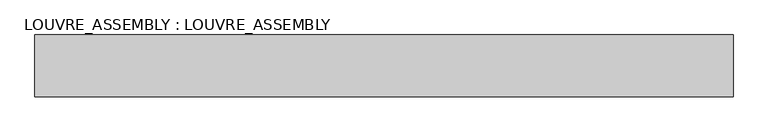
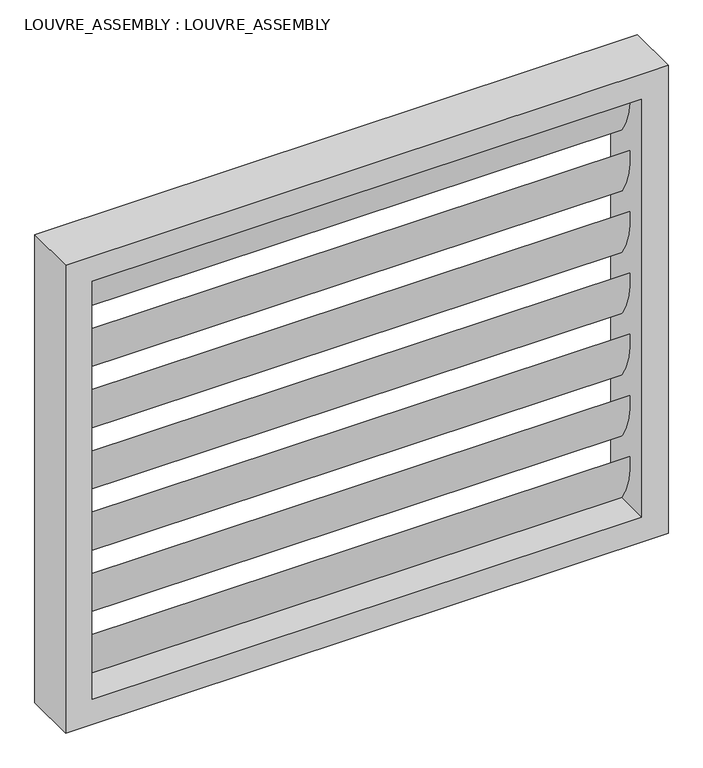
"""IFC4 building model written with IfcOpenShell, lengths in millimetres: plate geometry, LOUVRE_ASSEMBLY : LOUVRE_ASSEMBLY."""

from ifc_helpers import new_model, si_unit, point, frame, frame_2d, origin, place, context, project, spatial, circle_curve, trimmed, segment, composite_curve, outline, extrude, faceted_brep, source, transform, mapped, element, save


def louvre_assembly_louvre_assembly_8d303e35(model_context):
    return source(origin(), model_context, "Body", "SolidModel", [
        extrude(outline(composite_curve([segment(trimmed(circle_curve(frame_2d((202.8444235, 386.8519995)), 222.9910312), [point((19.4114284, 260.055563))], [point((-19.4114284, 404.944437))], False, "CARTESIAN"), True, "CONTINUOUS"), segment(trimmed(circle_curve(frame_2d((-202.8444235, 278.1480005)), 222.9910312), [point((-19.4114284, 404.944437))], [point((19.4114284, 260.055563))], False, "CARTESIAN"), True, "CONTINUOUS")], self_intersect=False)), frame((-775.0, 0.0, 0.0), z_axis=(1.0, 0.0, 0.0), x_axis=(0.0, 1.0, 0.0)), (0.0, 0.0, 1.0), 1550.0),
        extrude(outline(composite_curve([segment(trimmed(circle_curve(frame_2d((202.8444235, 569.3519995)), 222.9910312), [point((19.4114284, 442.555563))], [point((-19.4114284, 587.444437))], False, "CARTESIAN"), True, "CONTINUOUS"), segment(trimmed(circle_curve(frame_2d((-202.8444235, 460.6480005)), 222.9910312), [point((-19.4114284, 587.444437))], [point((19.4114284, 442.555563))], False, "CARTESIAN"), True, "CONTINUOUS")], self_intersect=False)), frame((-775.0, 0.0, 0.0), z_axis=(1.0, 0.0, 0.0), x_axis=(0.0, 1.0, 0.0)), (0.0, 0.0, 1.0), 1550.0),
        extrude(outline(composite_curve([segment(trimmed(circle_curve(frame_2d((202.8444235, 751.8519995)), 222.9910312), [point((19.4114284, 625.055563))], [point((-19.4114284, 769.944437))], False, "CARTESIAN"), True, "CONTINUOUS"), segment(trimmed(circle_curve(frame_2d((-202.8444235, 643.1480005)), 222.9910312), [point((-19.4114284, 769.944437))], [point((19.4114284, 625.055563))], False, "CARTESIAN"), True, "CONTINUOUS")], self_intersect=False)), frame((-775.0, 0.0, 0.0), z_axis=(1.0, 0.0, 0.0), x_axis=(0.0, 1.0, 0.0)), (0.0, 0.0, 1.0), 1550.0),
        extrude(outline(composite_curve([segment(trimmed(circle_curve(frame_2d((202.8444235, 934.3519995)), 222.9910312), [point((19.4114284, 807.555563))], [point((-19.4114284, 952.444437))], False, "CARTESIAN"), True, "CONTINUOUS"), segment(trimmed(circle_curve(frame_2d((-202.8444235, 825.6480005)), 222.9910312), [point((-19.4114284, 952.444437))], [point((19.4114284, 807.555563))], False, "CARTESIAN"), True, "CONTINUOUS")], self_intersect=False)), frame((-775.0, 0.0, 0.0), z_axis=(1.0, 0.0, 0.0), x_axis=(0.0, 1.0, 0.0)), (0.0, 0.0, 1.0), 1550.0),
        extrude(outline(composite_curve([segment(trimmed(circle_curve(frame_2d((202.8444235, 1116.8519995)), 222.9910312), [point((19.4114284, 990.055563))], [point((-19.4114284, 1134.944437))], False, "CARTESIAN"), True, "CONTINUOUS"), segment(trimmed(circle_curve(frame_2d((-202.8444235, 1008.1480005)), 222.9910312), [point((-19.4114284, 1134.944437))], [point((19.4114284, 990.055563))], False, "CARTESIAN"), True, "CONTINUOUS")], self_intersect=False)), frame((-775.0, 0.0, 0.0), z_axis=(1.0, 0.0, 0.0), x_axis=(0.0, 1.0, 0.0)), (0.0, 0.0, 1.0), 1550.0),
        extrude(outline(composite_curve([segment(trimmed(circle_curve(frame_2d((202.8444235, 204.3519995)), 222.9910312), [point((19.4114284, 77.555563))], [point((-19.4114284, 222.444437))], False, "CARTESIAN"), True, "CONTINUOUS"), segment(trimmed(circle_curve(frame_2d((-202.8444235, 95.6480005)), 222.9910312), [point((-19.4114284, 222.444437))], [point((19.4114284, 77.555563))], False, "CARTESIAN"), True, "CONTINUOUS")], self_intersect=False)), frame((-775.0, 0.0, 0.0), z_axis=(1.0, 0.0, 0.0), x_axis=(0.0, 1.0, 0.0)), (0.0, 0.0, 1.0), 1550.0),
        extrude(outline(composite_curve([segment(trimmed(circle_curve(frame_2d((202.8444235, 1299.3519995)), 222.9910312), [point((19.4114284, 1172.555563))], [point((-19.4114284, 1317.444437))], False, "CARTESIAN"), True, "CONTINUOUS"), segment(trimmed(circle_curve(frame_2d((-202.8444235, 1190.6480005)), 222.9910312), [point((-19.4114284, 1317.444437))], [point((19.4114284, 1172.555563))], False, "CARTESIAN"), True, "CONTINUOUS")], self_intersect=False)), frame((-775.0, 0.0, 0.0), z_axis=(1.0, 0.0, 0.0), x_axis=(0.0, 1.0, 0.0)), (0.0, 0.0, 1.0), 1550.0),
        faceted_brep([(-850.0, -75.0, 1395.0), (-850.0, 75.0, 1395.0), (-850.0, 75.0, 0.0), (-850.0, -75.0, 0.0), (-844.375, 75.0, 1389.375), (-844.375, -69.375, 1389.375), (-844.375, -69.375, 5.625), (-844.375, 75.0, 5.625), (-780.625, -69.375, 1325.625), (-780.625, 75.0, 1325.625), (-780.625, 75.0, 69.375), (-780.625, -69.375, 69.375), (-775.0, 75.0, 1320.0), (-775.0, -75.0, 1320.0), (-775.0, -75.0, 75.0), (-775.0, 75.0, 75.0), (850.0, 75.0, 0.0), (850.0, -75.0, 0.0), (844.375, -69.375, 5.625), (844.375, 75.0, 5.625), (780.625, 75.0, 69.375), (780.625, -69.375, 69.375), (775.0, -75.0, 75.0), (775.0, 75.0, 75.0), (850.0, 75.0, 1395.0), (850.0, -75.0, 1395.0), (844.375, -69.375, 1389.375), (844.375, 75.0, 1389.375), (780.625, 75.0, 1325.625), (780.625, -69.375, 1325.625), (775.0, -75.0, 1320.0), (775.0, 75.0, 1320.0)], [[[0, 1, 2, 3]], [[4, 5, 6, 7]], [[8, 9, 10, 11]], [[12, 13, 14, 15]], [[3, 2, 16, 17]], [[7, 6, 18, 19]], [[11, 10, 20, 21]], [[15, 14, 22, 23]], [[17, 16, 24, 25]], [[19, 18, 26, 27]], [[21, 20, 28, 29]], [[23, 22, 30, 31]], [[25, 24, 1, 0]], [[27, 26, 5, 4]], [[29, 28, 9, 8]], [[31, 30, 13, 12]], [[3, 17, 25, 0], [13, 30, 22, 14]], [[9, 28, 20, 10], [15, 23, 31, 12]], [[5, 26, 18, 6], [11, 21, 29, 8]], [[1, 24, 16, 2], [7, 19, 27, 4]]]),
    ])


if __name__ == "__main__":
    model = new_model("IFC4")
    model_context = context("Model", 3, world=origin())
    ifc_project = project(units=[si_unit("LENGTHUNIT", "METRE", prefix="MILLI")], contexts=[model_context])
    site = spatial("IfcSite", under=ifc_project)
    building = spatial("IfcBuilding", under=site)
    placement = place(None, origin())
    louvre_assembly_louvre_assembly_shape = louvre_assembly_louvre_assembly_8d303e35(model_context)
    element("IfcPlate", 1, ObjectType="LOUVRE_ASSEMBLY : LOUVRE_ASSEMBLY", at=placement, inside=building, context=model_context, shape_type="MappedRepresentation", body=[
        mapped(louvre_assembly_louvre_assembly_shape, transform((0.0, 0.0, 0.0), x_axis=(1.0, 0.0, 0.0), y_axis=(0.0, 1.0, 0.0), z_axis=(0.0, 0.0, 1.0))),
    ])
    save(model, "model.ifc")
